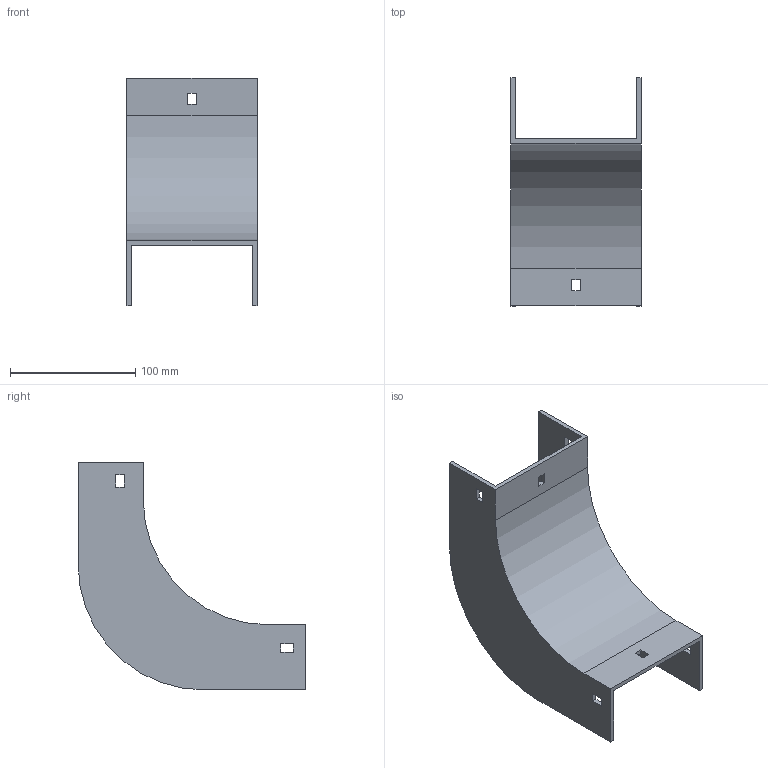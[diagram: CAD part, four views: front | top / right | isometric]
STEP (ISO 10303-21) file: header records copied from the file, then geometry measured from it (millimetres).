
FILE_DESCRIPTION (( 'STEP AP214' ), '1' );
FILE_NAME ('33F1B100.step', '2025-02-21T12:52:16', ( '' ), ( '' ), 'SwSTEP 2.0', 'SolidWorks 2023', '' );
FILE_SCHEMA (( 'AUTOMOTIVE_DESIGN' ));
Length unit declared in the file: millimetre
Products named in the file (1): 33F1B100
Bounding box: 104 x 182 x 182 mm (x, y, z)
Volume: 186810.3 mm3; surface area: 111077 mm2
Topology: 1 solids, 1 shells, 42 faces, 120 edges, 80 vertices
Faces by surface type: plane 38, cylinder 4
Entity records: 1399 total; most frequent: CARTESIAN_POINT 243, ORIENTED_EDGE 240, DIRECTION 214, EDGE_CURVE 120, LINE 112, VECTOR 112, VERTEX_POINT 80, EDGE_LOOP 54
